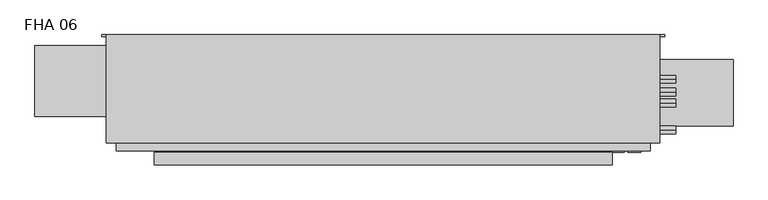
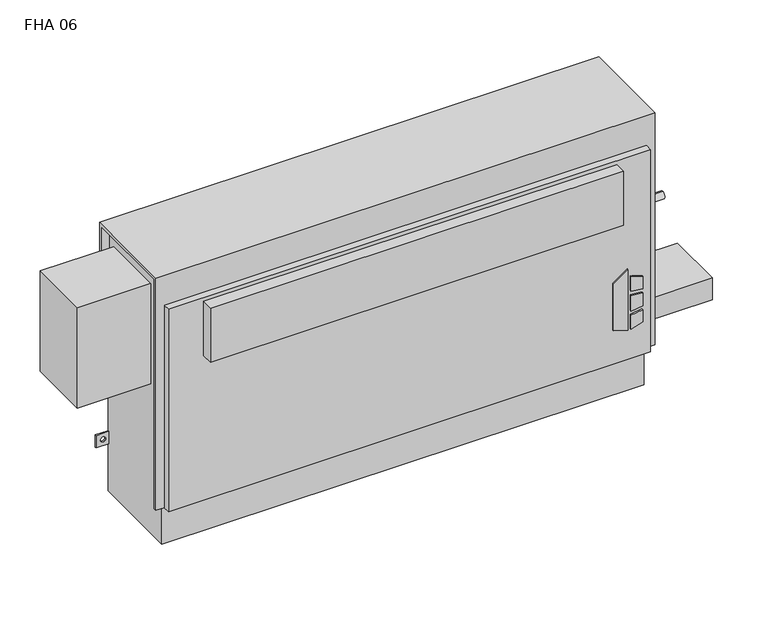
"""IFC4 building model written with IfcOpenShell, lengths in millimetres: proxy geometry, Vertical_Fan_Coil_Unit_-_FHA_-_IEC_-_4-Pipe_FS-FR_RH_2022 : FHA 06."""

from ifc_helpers import new_model, si_unit, point, frame, frame_2d, origin, place, context, project, spatial, polyline, circle_curve, trimmed, segment, composite_curve, outline, extrude, source, transform, mapped, element, save
from ifc_brep_helpers import plane_surface, revolved_surface, advanced_brep


def fha_06_2580c875(model_context):
    return source(origin(), model_context, "Body", "SolidModel", [
        extrude(outline(polyline([(172.5771459, 601.7368862), (162.6290756, 633.9102728), (304.8, 633.9102728), (281.7779939, 601.7368862), (172.5771459, 601.7368862)])), frame((0.0, 9.525, 0.0), z_axis=(0.0, 1.0, 0.0), x_axis=(0.0, 0.0, 1.0)), (0.0, 0.0, 1.0), 3.175),
        extrude(outline(polyline([(251.5764313, 640.6686058), (248.3740387, 666.75), (277.6028798, 666.75), (285.6672948, 640.6686058), (251.5764313, 640.6686058)])), frame((0.0, 9.525, 0.0), z_axis=(0.0, 1.0, 0.0), x_axis=(0.0, 0.0, 1.0)), (0.0, 0.0, 1.0), 3.175),
        extrude(outline(polyline([(199.7129044, 666.75), (196.0474034, 640.6686058), (162.6290756, 640.6686058), (171.2633128, 666.75), (199.7129044, 666.75)])), frame((0.0, 9.525, 0.0), z_axis=(0.0, 1.0, 0.0), x_axis=(0.0, 0.0, 1.0)), (0.0, 0.0, 1.0), 3.175),
        extrude(outline(polyline([(239.0280658, 666.75), (241.3098921, 640.6686058), (205.3723436, 640.6686058), (208.1136086, 666.75), (239.0280658, 666.75)])), frame((0.0, 9.525, 0.0), z_axis=(0.0, 1.0, 0.0), x_axis=(0.0, 0.0, 1.0)), (0.0, 0.0, 1.0), 3.175),
        extrude(outline(composite_curve([segment(trimmed(circle_curve(frame_2d((749.3, 128.5875)), 9.525), [point((739.775, 128.5875))], [point((758.825, 128.5875))], False, "CARTESIAN"), True, "CONTINUOUS"), segment(trimmed(circle_curve(frame_2d((749.3, 128.5875)), 9.525), [point((758.825, 128.5875))], [point((739.775, 128.5875))], False, "CARTESIAN"), True, "CONTINUOUS")], self_intersect=False)), frame((0.0, 0.0, 101.6), z_axis=(0.0, 0.0, 1.0), x_axis=(1.0, 0.0, 0.0)), (0.0, 0.0, 1.0), 25.4),
        extrude(outline(polyline([(850.9, 195.2625), (850.9, 61.9125), (685.8, 61.9125), (685.8, 195.2625), (850.9, 195.2625)])), frame((0.0, 0.0, 127.0), z_axis=(0.0, 0.0, 1.0), x_axis=(1.0, 0.0, 0.0)), (0.0, 0.0, 1.0), 50.8),
        extrude(outline(polyline([(609.6, -15.875), (-304.8, -15.875), (-304.8, 9.525), (609.6, 9.525), (609.6, -15.875)])), frame((0.0, 0.0, 431.8), z_axis=(0.0, 0.0, 1.0), x_axis=(1.0, 0.0, 0.0)), (0.0, 0.0, 1.0), 127.0),
        extrude(outline(composite_curve([segment(trimmed(circle_curve(frame_2d((107.95, 457.2)), 7.9375), [point((107.95, 449.2625))], [point((107.95, 465.1375))], False, "CARTESIAN"), True, "CONTINUOUS"), segment(trimmed(circle_curve(frame_2d((107.95, 457.2)), 7.9375), [point((107.95, 465.1375))], [point((107.95, 449.2625))], False, "CARTESIAN"), True, "CONTINUOUS")], self_intersect=False)), frame((685.8, 0.0, 0.0), z_axis=(1.0, 0.0, 0.0), x_axis=(0.0, 1.0, 0.0)), (0.0, 0.0, 1.0), 50.8),
        extrude(outline(composite_curve([segment(trimmed(circle_curve(frame_2d((155.575, 431.8)), 7.9375), [point((155.575, 423.8625))], [point((155.575, 439.7375))], False, "CARTESIAN"), True, "CONTINUOUS"), segment(trimmed(circle_curve(frame_2d((155.575, 431.8)), 7.9375), [point((155.575, 439.7375))], [point((155.575, 423.8625))], False, "CARTESIAN"), True, "CONTINUOUS")], self_intersect=False)), frame((685.8, 0.0, 0.0), z_axis=(1.0, 0.0, 0.0), x_axis=(0.0, 1.0, 0.0)), (0.0, 0.0, 1.0), 50.8),
        extrude(outline(composite_curve([segment(trimmed(circle_curve(frame_2d((130.175, 554.99)), 7.9502), [point((130.175, 547.0398))], [point((130.175, 562.9402))], False, "CARTESIAN"), True, "CONTINUOUS"), segment(trimmed(circle_curve(frame_2d((130.175, 554.99)), 7.9502), [point((130.175, 562.9402))], [point((130.175, 547.0398))], False, "CARTESIAN"), True, "CONTINUOUS")], self_intersect=False)), frame((685.8, 0.0, 0.0), z_axis=(1.0, 0.0, 0.0), x_axis=(0.0, 1.0, 0.0)), (0.0, 0.0, 1.0), 50.8),
        extrude(outline(composite_curve([segment(trimmed(circle_curve(frame_2d((53.975, 416.56)), 7.9502), [point((53.975, 408.6098))], [point((53.975, 424.5102))], False, "CARTESIAN"), True, "CONTINUOUS"), segment(trimmed(circle_curve(frame_2d((53.975, 416.56)), 7.9502), [point((53.975, 424.5102))], [point((53.975, 408.6098))], False, "CARTESIAN"), True, "CONTINUOUS")], self_intersect=False)), frame((685.8, 0.0, 0.0), z_axis=(1.0, 0.0, 0.0), x_axis=(0.0, 1.0, 0.0)), (0.0, 0.0, 1.0), 50.8),
        extrude(outline(polyline([(-381.0, 223.266), (-381.0, 81.534), (-542.925, 81.534), (-542.925, 223.266), (-381.0, 223.266)])), frame((0.0, 0.0, 349.25), z_axis=(0.0, 0.0, 1.0), x_axis=(1.0, 0.0, 0.0)), (0.0, 0.0, 1.0), 234.95),
        advanced_brep(
        [(704.85, 244.475, 635.0), (-400.05, 244.475, 635.0), (-400.05, 28.575, 635.0), (704.85, 28.575, 635.0), (-381.0, 244.475, 0.0), (685.8, 244.475, 0.0), (685.8, 38.1, 0.0), (-381.0, 38.1, 0.0), (704.85, 244.475, 558.8), (685.8, 244.475, 558.8), (685.8, 244.475, 414.3375), (714.375, 244.475, 414.3375), (714.375, 244.475, 385.7625), (685.8, 244.475, 385.7625), (685.8, 244.475, 287.3375), (714.375, 244.475, 287.3375), (714.375, 244.475, 258.7625), (685.8, 244.475, 258.7625), (685.8, 244.475, 141.2875), (714.375, 244.475, 141.2875), (714.375, 244.475, 112.7125), (685.8, 244.475, 112.7125), (-381.0, 244.475, 112.7125), (-409.575, 244.475, 112.7125), (-409.575, 244.475, 141.2875), (-381.0, 244.475, 141.2875), (-381.0, 244.475, 258.7625), (-409.575, 244.475, 258.7625), (-409.575, 244.475, 287.3375), (-381.0, 244.475, 287.3375), (-381.0, 244.475, 385.7625), (-409.575, 244.475, 385.7625), (-409.575, 244.475, 414.3375), (-381.0, 244.475, 414.3375), (-381.0, 244.475, 558.8), (-400.05, 244.475, 558.8), (704.0626, 244.475, 127.0), (692.9374, 244.475, 127.0), (-388.1374, 244.475, 127.0), (-399.2626, 244.475, 127.0), (704.0626, 244.475, 273.05), (692.9374, 244.475, 273.05), (-388.1374, 244.475, 273.05), (-399.2626, 244.475, 273.05), (704.0626, 244.475, 400.05), (692.9374, 244.475, 400.05), (-388.1374, 244.475, 400.05), (-399.2626, 244.475, 400.05), (-400.05, 238.125, 558.8), (-400.05, 238.125, 628.65), (-400.05, 34.925, 628.65), (-400.05, 34.925, 92.075), (-400.05, 28.575, 92.075), (685.8, 12.7, 565.15), (-381.0, 12.7, 565.15), (-381.0, 12.7, 92.075), (685.8, 12.7, 92.075), (704.85, 28.575, 92.075), (704.85, 34.925, 92.075), (704.85, 34.925, 628.65), (704.85, 238.125, 628.65), (704.85, 238.125, 558.8), (-381.0, 28.575, 92.075), (-381.0, 28.575, 565.15), (685.8, 28.575, 565.15), (685.8, 28.575, 92.075), (-381.0, 34.925, 92.075), (-381.0, 38.1, 92.075), (685.8, 38.1, 92.075), (685.8, 34.925, 92.075), (685.8, 241.3, 112.7125), (685.8, 241.3, 141.2875), (685.8, 241.3, 258.7625), (685.8, 241.3, 287.3375), (685.8, 241.3, 385.7625), (685.8, 241.3, 414.3375), (685.8, 238.125, 558.8), (685.8, 238.125, 628.65), (685.8, 34.925, 628.65), (-381.0, 34.925, 628.65), (-381.0, 238.125, 628.65), (-381.0, 238.125, 558.8), (-381.0, 241.3, 414.3375), (-381.0, 241.3, 385.7625), (-381.0, 241.3, 287.3375), (-381.0, 241.3, 258.7625), (-381.0, 241.3, 141.2875), (-381.0, 241.3, 112.7125), (714.375, 241.3, 112.7125), (714.375, 241.3, 141.2875), (692.9374, 241.3, 127.0), (704.0626, 241.3, 127.0), (714.375, 241.3, 258.7625), (714.375, 241.3, 287.3375), (692.9374, 241.3, 273.05), (704.0626, 241.3, 273.05), (714.375, 241.3, 385.7625), (714.375, 241.3, 414.3375), (692.9374, 241.3, 400.05), (704.0626, 241.3, 400.05), (-409.575, 241.3, 141.2875), (-409.575, 241.3, 112.7125), (-399.2626, 241.3, 127.0), (-388.1374, 241.3, 127.0), (-409.575, 241.3, 287.3375), (-409.575, 241.3, 258.7625), (-399.2626, 241.3, 273.05), (-388.1374, 241.3, 273.05), (-409.575, 241.3, 414.3375), (-409.575, 241.3, 385.7625), (-399.2626, 241.3, 400.05), (-388.1374, 241.3, 400.05)],
        [
            (0, 1),
            (1, 2),
            (2, 3),
            (3, 0),
            (4, 5),
            (5, 6),
            (6, 7),
            (7, 4),
            (0, 8),
            (8, 9),
            (9, 10),
            (10, 11),
            (11, 12),
            (12, 13),
            (13, 14),
            (14, 15),
            (15, 16),
            (16, 17),
            (17, 18),
            (18, 19),
            (19, 20),
            (20, 21),
            (21, 5),
            (4, 22),
            (22, 23),
            (23, 24),
            (24, 25),
            (25, 26),
            (26, 27),
            (27, 28),
            (28, 29),
            (29, 30),
            (30, 31),
            (31, 32),
            (32, 33),
            (33, 34),
            (34, 35),
            (35, 1),
            (36, 37, circle_curve(frame((698.5, 244.475, 127.0), z_axis=(0.0, -1.0, 0.0), x_axis=(-1.0, 0.0, 0.0)), 5.5626)),
            (37, 36, circle_curve(frame((698.5, 244.475, 127.0), z_axis=(0.0, -1.0, 0.0), x_axis=(-1.0, 0.0, 0.0)), 5.5626)),
            (38, 39, circle_curve(frame((-393.7, 244.475, 127.0), z_axis=(0.0, -1.0, 0.0), x_axis=(-1.0, 0.0, 0.0)), 5.5626)),
            (39, 38, circle_curve(frame((-393.7, 244.475, 127.0), z_axis=(0.0, -1.0, 0.0), x_axis=(-1.0, 0.0, 0.0)), 5.5626)),
            (40, 41, circle_curve(frame((698.5, 244.475, 273.05), z_axis=(0.0, -1.0, 0.0), x_axis=(-1.0, 0.0, 0.0)), 5.5626)),
            (41, 40, circle_curve(frame((698.5, 244.475, 273.05), z_axis=(0.0, -1.0, 0.0), x_axis=(-1.0, 0.0, 0.0)), 5.5626)),
            (42, 43, circle_curve(frame((-393.7, 244.475, 273.05), z_axis=(0.0, -1.0, 0.0), x_axis=(-1.0, 0.0, 0.0)), 5.5626)),
            (43, 42, circle_curve(frame((-393.7, 244.475, 273.05), z_axis=(0.0, -1.0, 0.0), x_axis=(-1.0, 0.0, 0.0)), 5.5626)),
            (44, 45, circle_curve(frame((698.5, 244.475, 400.05), z_axis=(0.0, -1.0, 0.0), x_axis=(-1.0, 0.0, 0.0)), 5.5626)),
            (45, 44, circle_curve(frame((698.5, 244.475, 400.05), z_axis=(0.0, -1.0, 0.0), x_axis=(-1.0, 0.0, 0.0)), 5.5626)),
            (46, 47, circle_curve(frame((-393.7, 244.475, 400.05), z_axis=(0.0, -1.0, 0.0), x_axis=(-1.0, 0.0, 0.0)), 5.5626)),
            (47, 46, circle_curve(frame((-393.7, 244.475, 400.05), z_axis=(0.0, -1.0, 0.0), x_axis=(-1.0, 0.0, 0.0)), 5.5626)),
            (35, 48),
            (48, 49),
            (49, 50),
            (50, 51),
            (51, 52),
            (52, 2),
            (53, 54),
            (54, 55),
            (55, 56),
            (56, 53),
            (3, 57),
            (57, 58),
            (58, 59),
            (59, 60),
            (60, 61),
            (61, 8),
            (52, 62),
            (62, 63),
            (63, 64),
            (64, 65),
            (65, 57),
            (53, 64),
            (63, 54),
            (55, 62),
            (51, 66),
            (66, 67),
            (67, 68),
            (68, 69),
            (69, 58),
            (65, 56),
            (6, 68),
            (67, 7),
            (21, 70),
            (70, 71),
            (71, 18),
            (17, 72),
            (72, 73),
            (73, 14),
            (13, 74),
            (74, 75),
            (75, 10),
            (9, 76),
            (76, 77),
            (77, 78),
            (78, 69),
            (66, 79),
            (79, 80),
            (80, 81),
            (81, 34),
            (33, 82),
            (82, 83),
            (83, 30),
            (29, 84),
            (84, 85),
            (85, 26),
            (25, 86),
            (86, 87),
            (87, 22),
            (76, 61),
            (60, 77),
            (78, 59),
            (50, 79),
            (81, 48),
            (80, 49),
            (70, 88),
            (88, 89),
            (89, 71),
            (90, 91, circle_curve(frame((698.5, 241.3, 127.0), z_axis=(0.0, 1.0, 0.0), x_axis=(-1.0, 0.0, 0.0)), 5.5626)),
            (91, 90, circle_curve(frame((698.5, 241.3, 127.0), z_axis=(0.0, 1.0, 0.0), x_axis=(-1.0, 0.0, 0.0)), 5.5626)),
            (92, 93),
            (93, 73),
            (72, 92),
            (94, 95, circle_curve(frame((698.5, 241.3, 273.05), z_axis=(0.0, 1.0, 0.0), x_axis=(-1.0, 0.0, 0.0)), 5.5626)),
            (95, 94, circle_curve(frame((698.5, 241.3, 273.05), z_axis=(0.0, 1.0, 0.0), x_axis=(-1.0, 0.0, 0.0)), 5.5626)),
            (96, 97),
            (97, 75),
            (74, 96),
            (98, 99, circle_curve(frame((698.5, 241.3, 400.05), z_axis=(0.0, 1.0, 0.0), x_axis=(-1.0, 0.0, 0.0)), 5.5626)),
            (99, 98, circle_curve(frame((698.5, 241.3, 400.05), z_axis=(0.0, 1.0, 0.0), x_axis=(-1.0, 0.0, 0.0)), 5.5626)),
            (100, 101),
            (101, 87),
            (86, 100),
            (102, 103, circle_curve(frame((-393.7, 241.3, 127.0), z_axis=(0.0, 1.0, 0.0), x_axis=(-1.0, 0.0, 0.0)), 5.5626)),
            (103, 102, circle_curve(frame((-393.7, 241.3, 127.0), z_axis=(0.0, 1.0, 0.0), x_axis=(-1.0, 0.0, 0.0)), 5.5626)),
            (84, 104),
            (104, 105),
            (105, 85),
            (106, 107, circle_curve(frame((-393.7, 241.3, 273.05), z_axis=(0.0, 1.0, 0.0), x_axis=(-1.0, 0.0, 0.0)), 5.5626)),
            (107, 106, circle_curve(frame((-393.7, 241.3, 273.05), z_axis=(0.0, 1.0, 0.0), x_axis=(-1.0, 0.0, 0.0)), 5.5626)),
            (108, 109),
            (109, 83),
            (82, 108),
            (110, 111, circle_curve(frame((-393.7, 241.3, 400.05), z_axis=(0.0, 1.0, 0.0), x_axis=(-1.0, 0.0, 0.0)), 5.5626)),
            (111, 110, circle_curve(frame((-393.7, 241.3, 400.05), z_axis=(0.0, 1.0, 0.0), x_axis=(-1.0, 0.0, 0.0)), 5.5626)),
            (89, 19),
            (88, 20),
            (16, 92),
            (93, 15),
            (12, 96),
            (97, 11),
            (24, 100),
            (101, 23),
            (105, 27),
            (104, 28),
            (32, 108),
            (109, 31),
            (90, 37),
            (36, 91),
            (102, 39),
            (38, 103),
            (94, 41),
            (40, 95),
            (106, 43),
            (42, 107),
            (98, 45),
            (44, 99),
            (110, 47),
            (46, 111),
        ],
        [
            plane_surface(frame((-400.05, 244.475, 635.0), z_axis=(0.0, 0.0, 1.0), x_axis=(-1.0, 0.0, 0.0))),
            plane_surface(frame((-400.05, 244.475, 0.0), z_axis=(0.0, 0.0, -1.0), x_axis=(1.0, 0.0, 0.0))),
            plane_surface(frame((704.85, 244.475, 635.0), z_axis=(0.0, 1.0, 0.0), x_axis=(0.0, 0.0, -1.0))),
            plane_surface(frame((-400.05, 244.475, 635.0), z_axis=(-1.0, 0.0, 0.0), x_axis=(0.0, 0.0, -1.0))),
            plane_surface(frame((-400.05, 12.7, 635.0), z_axis=(0.0, -1.0, 0.0), x_axis=(0.0, 0.0, -1.0))),
            plane_surface(frame((704.85, 12.7, 635.0), z_axis=(1.0, 0.0, 0.0), x_axis=(0.0, 0.0, -1.0))),
            plane_surface(frame((-654.05, 28.575, 635.0), z_axis=(0.0, -1.0, 0.0), x_axis=(1.0, 0.0, 0.0))),
            plane_surface(frame((-654.05, 28.575, 565.15), z_axis=(0.0, 0.0, 1.0), x_axis=(1.0, 0.0, 0.0))),
            plane_surface(frame((-400.05, 12.7, 92.075), z_axis=(0.0, 0.0, -1.0), x_axis=(1.0, 0.0, 0.0))),
            plane_surface(frame((-400.05, 38.1, 92.075), z_axis=(0.0, -1.0, 0.0), x_axis=(1.0, 0.0, 0.0))),
            plane_surface(frame((685.8, 28.575, 92.075), z_axis=(1.0, 0.0, 0.0), x_axis=(0.0, -1.0, 0.0))),
            plane_surface(frame((-381.0, 28.575, 565.15), z_axis=(-1.0, 0.0, 0.0), x_axis=(0.0, -1.0, 0.0))),
            plane_surface(frame((685.8, 244.475, 0.0), z_axis=(1.0, 0.0, 0.0), x_axis=(0.0, -1.0, 0.0))),
            plane_surface(frame((-381.0, 244.475, 92.075), z_axis=(-1.0, 0.0, 0.0), x_axis=(0.0, -1.0, 0.0))),
            plane_surface(frame((685.8, 238.125, 628.65), z_axis=(0.0, -1.0, 0.0), x_axis=(1.0, 0.0, 0.0))),
            plane_surface(frame((685.8, 238.125, 558.8), z_axis=(0.0, 0.0, -1.0), x_axis=(1.0, 0.0, 0.0))),
            plane_surface(frame((685.8, 34.925, 92.075), z_axis=(0.0, 1.0, 0.0), x_axis=(1.0, 0.0, 0.0))),
            plane_surface(frame((685.8, 34.925, 628.65), z_axis=(0.0, 0.0, -1.0), x_axis=(1.0, 0.0, 0.0))),
            plane_surface(frame((-381.0, 34.925, 628.65), z_axis=(0.0, 1.0, 0.0), x_axis=(-1.0, 0.0, 0.0))),
            plane_surface(frame((-381.0, 244.475, 558.8), z_axis=(0.0, 0.0, -1.0), x_axis=(-1.0, 0.0, 0.0))),
            plane_surface(frame((-381.0, 238.125, 558.8), z_axis=(0.0, -1.0, 0.0), x_axis=(-1.0, 0.0, 0.0))),
            plane_surface(frame((-381.0, 238.125, 628.65), z_axis=(0.0, 0.0, -1.0), x_axis=(-1.0, 0.0, 0.0))),
            plane_surface(frame((714.375, 241.3, 141.2875), z_axis=(0.0, -1.0, 0.0), x_axis=(-1.0, 0.0, 0.0))),
            plane_surface(frame((685.8, 244.475, 141.2875), z_axis=(0.0, 0.0, 1.0), x_axis=(0.0, -1.0, 0.0))),
            plane_surface(frame((714.375, 244.475, 141.2875), z_axis=(1.0, 0.0, 0.0), x_axis=(0.0, -1.0, 0.0))),
            plane_surface(frame((714.375, 244.475, 112.7125), z_axis=(0.0, 0.0, -1.0), x_axis=(0.0, -1.0, 0.0))),
            plane_surface(frame((714.375, 244.475, 258.7625), z_axis=(0.0, 0.0, -1.0), x_axis=(0.0, -1.0, 0.0))),
            plane_surface(frame((685.8, 244.475, 287.3375), z_axis=(0.0, 0.0, 1.0), x_axis=(0.0, -1.0, 0.0))),
            plane_surface(frame((714.375, 244.475, 287.3375), z_axis=(1.0, 0.0, 0.0), x_axis=(0.0, -1.0, 0.0))),
            plane_surface(frame((714.375, 244.475, 385.7625), z_axis=(0.0, 0.0, -1.0), x_axis=(0.0, -1.0, 0.0))),
            plane_surface(frame((685.8, 244.475, 414.3375), z_axis=(0.0, 0.0, 1.0), x_axis=(0.0, -1.0, 0.0))),
            plane_surface(frame((714.375, 244.475, 414.3375), z_axis=(1.0, 0.0, 0.0), x_axis=(0.0, -1.0, 0.0))),
            plane_surface(frame((-409.575, 244.475, 141.2875), z_axis=(0.0, 0.0, 1.0), x_axis=(0.0, -1.0, 0.0))),
            plane_surface(frame((-381.0, 244.475, 112.7125), z_axis=(0.0, 0.0, -1.0), x_axis=(0.0, -1.0, 0.0))),
            plane_surface(frame((-409.575, 244.475, 112.7125), z_axis=(-1.0, 0.0, 0.0), x_axis=(0.0, -1.0, 0.0))),
            plane_surface(frame((-381.0, 244.475, 258.7625), z_axis=(0.0, 0.0, -1.0), x_axis=(0.0, -1.0, 0.0))),
            plane_surface(frame((-409.575, 244.475, 258.7625), z_axis=(-1.0, 0.0, 0.0), x_axis=(0.0, -1.0, 0.0))),
            plane_surface(frame((-409.575, 244.475, 287.3375), z_axis=(0.0, 0.0, 1.0), x_axis=(0.0, -1.0, 0.0))),
            plane_surface(frame((-409.575, 244.475, 414.3375), z_axis=(0.0, 0.0, 1.0), x_axis=(0.0, -1.0, 0.0))),
            plane_surface(frame((-381.0, 244.475, 385.7625), z_axis=(0.0, 0.0, -1.0), x_axis=(0.0, -1.0, 0.0))),
            plane_surface(frame((-409.575, 244.475, 385.7625), z_axis=(-1.0, 0.0, 0.0), x_axis=(0.0, -1.0, 0.0))),
            revolved_surface(polyline([(692.9374, 241.3, 127.0), (692.9374, 244.475, 127.0)]), (698.5, 244.475, 127.0), (0.0, -1.0, 0.0)),
            revolved_surface(polyline([(-399.26259999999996, 241.3, 127.0), (-399.26259999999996, 244.475, 127.0)]), (-393.7, 244.475, 127.0), (0.0, -1.0, 0.0)),
            revolved_surface(polyline([(692.9374, 241.3, 273.05), (692.9374, 244.475, 273.05)]), (698.5, 244.475, 273.05), (0.0, -1.0, 0.0)),
            revolved_surface(polyline([(-399.26259999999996, 241.3, 273.05), (-399.26259999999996, 244.475, 273.05)]), (-393.7, 244.475, 273.05), (0.0, -1.0, 0.0)),
            revolved_surface(polyline([(692.9374, 241.3, 400.05), (692.9374, 244.475, 400.05)]), (698.5, 244.475, 400.05), (0.0, -1.0, 0.0)),
            revolved_surface(polyline([(-399.26259999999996, 241.3, 400.05), (-399.26259999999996, 244.475, 400.05)]), (-393.7, 244.475, 400.05), (0.0, -1.0, 0.0)),
        ],
        [
            (0, [[1, 2, 3, 4]]),
            (1, [[5, 6, 7, 8]]),
            (2, [[-1, 9, 10, 11, 12, 13, 14, 15, 16, 17, 18, 19, 20, 21, 22, 23, -5, 24, 25, 26, 27, 28, 29, 30, 31, 32, 33, 34, 35, 36, 37, 38], [39, 40], [41, 42], [43, 44], [45, 46], [47, 48], [49, 50]]),
            (3, [[-2, -38, 51, 52, 53, 54, 55, 56]]),
            (4, [[57, 58, 59, 60]]),
            (5, [[-4, 61, 62, 63, 64, 65, 66, -9]]),
            (6, [[-3, -56, 67, 68, 69, 70, 71, -61]]),
            (7, [[-57, 72, -69, 73]]),
            (8, [[-59, 74, -67, -55, 75, 76, 77, 78, 79, -62, -71, 80]]),
            (9, [[-7, 81, -77, 82]]),
            (10, [[-70, -72, -60, -80]]),
            (11, [[-68, -74, -58, -73]]),
            (12, [[-6, -23, 83, 84, 85, -19, 86, 87, 88, -15, 89, 90, 91, -11, 92, 93, 94, 95, -78, -81]]),
            (13, [[-8, -82, -76, 96, 97, 98, 99, -36, 100, 101, 102, -32, 103, 104, 105, -28, 106, 107, 108, -24]]),
            (14, [[-93, 109, -65, 110]]),
            (15, [[-92, -10, -66, -109]]),
            (16, [[-95, 111, -63, -79]]),
            (17, [[-94, -110, -64, -111]]),
            (18, [[-96, -75, -54, 112]]),
            (19, [[-99, 113, -51, -37]]),
            (20, [[-98, 114, -52, -113]]),
            (21, [[-97, -112, -53, -114]]),
            (22, [[115, 116, 117, -84], [118, 119]]),
            (22, [[120, 121, -87, 122], [123, 124]]),
            (22, [[125, 126, -90, 127], [128, 129]]),
            (22, [[130, 131, -107, 132], [133, 134]]),
            (22, [[135, 136, 137, -104], [138, 139]]),
            (22, [[140, 141, -101, 142], [143, 144]]),
            (23, [[-117, 145, -20, -85]]),
            (24, [[-116, 146, -21, -145]]),
            (25, [[-115, -83, -22, -146]]),
            (26, [[-122, -86, -18, 147]]),
            (27, [[-121, 148, -16, -88]]),
            (28, [[-120, -147, -17, -148]]),
            (29, [[-127, -89, -14, 149]]),
            (30, [[-126, 150, -12, -91]]),
            (31, [[-125, -149, -13, -150]]),
            (32, [[-132, -106, -27, 151]]),
            (33, [[-131, 152, -25, -108]]),
            (34, [[-130, -151, -26, -152]]),
            (35, [[-137, 153, -29, -105]]),
            (36, [[-136, 154, -30, -153]]),
            (37, [[-135, -103, -31, -154]]),
            (38, [[-142, -100, -35, 155]]),
            (39, [[-141, 156, -33, -102]]),
            (40, [[-140, -155, -34, -156]]),
            (41, [[157, -39, 158, -118]]),
            (41, [[-157, -119, -158, -40]]),
            (42, [[159, -41, 160, -133]]),
            (42, [[-159, -134, -160, -42]]),
            (43, [[161, -43, 162, -123]]),
            (43, [[-161, -124, -162, -44]]),
            (44, [[163, -45, 164, -138]]),
            (44, [[-163, -139, -164, -46]]),
            (45, [[165, -47, 166, -128]]),
            (45, [[-165, -129, -166, -48]]),
            (46, [[167, -49, 168, -143]]),
            (46, [[-167, -144, -168, -50]]),
        ],
    ),
    ])


if __name__ == "__main__":
    model = new_model("IFC4")
    model_context = context("Model", 3, world=origin())
    ifc_project = project(units=[si_unit("LENGTHUNIT", "METRE", prefix="MILLI")], contexts=[model_context])
    site = spatial("IfcSite", under=ifc_project)
    building = spatial("IfcBuilding", under=site)
    placement = place(None, origin())
    fha_06_shape = fha_06_2580c875(model_context)
    element("IfcBuildingElementProxy", 1, Name="Vertical_Fan_Coil_Unit_-_FHA_-_IEC_-_4-Pipe_FS-FR_RH_2022 : FHA 06", ObjectType="Vertical_Fan_Coil_Unit_-_FHA_-_IEC_-_4-Pipe_FS-FR_RH_2022 : FHA 06", at=placement, inside=building, context=model_context, shape_type="MappedRepresentation", body=[
        mapped(fha_06_shape, transform((0.0, 0.0, 0.0), x_axis=(1.0, 0.0, 0.0), y_axis=(0.0, 1.0, 0.0), z_axis=(0.0, 0.0, 1.0))),
    ])
    save(model, "model.ifc")
